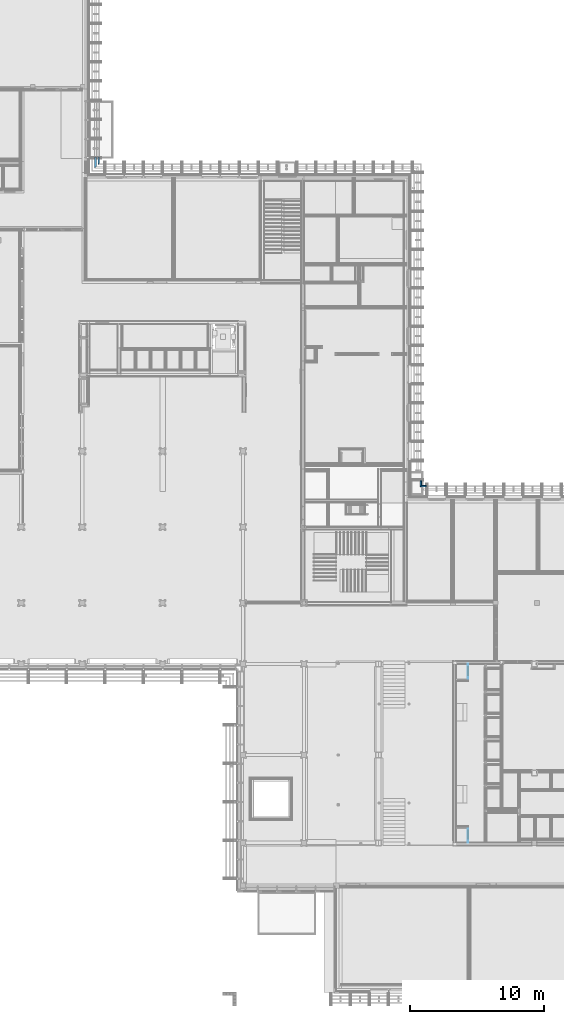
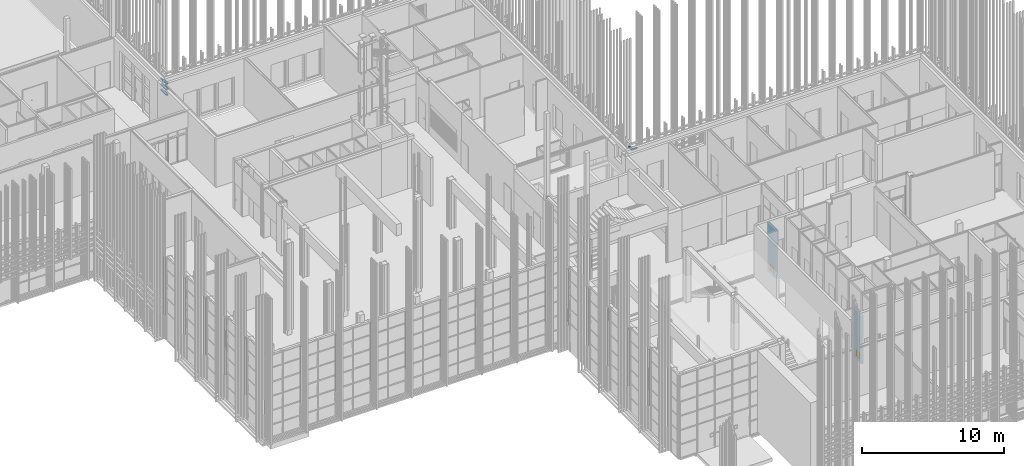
# One storey, part 236 of 260: 5 discrete accessories, 2 doors, 2 openings, 2 elements without a shape of their own, plus 8 elements that do not belong to this part.
"""IFC2X3 building model written with IfcOpenShell, lengths in millimetres."""

from ifc_helpers import new_model, entity, si_unit, converted_unit, derived_unit, money_unit, direction, frame, origin_with_axes, place, context, subcontext, project, spatial, faceted_brep, material, material_list, type_object, element, fill, aggregate, save


model = new_model("IFC2X3")

# Units and contexts
model_context = context("Model", 3, precision=0.01, world=origin_with_axes(), true_north=direction((0.0, 1.0)))
body_context = subcontext(model_context, "Body", "Model", "MODEL_VIEW")
ifc_project = project(units=[si_unit("LENGTHUNIT", "METRE", prefix="MILLI"), si_unit("AREAUNIT", "SQUARE_METRE"), si_unit("VOLUMEUNIT", "CUBIC_METRE"), converted_unit("PLANEANGLEUNIT", "DEGREE", entity("IfcPlaneAngleMeasure", 0.0174532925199), si_unit("PLANEANGLEUNIT", "RADIAN"), dimensions=[0, 0, 0, 0, 0, 0, 0]), money_unit("EUR"), converted_unit("TIMEUNIT", "Year", entity("IfcTimeMeasure", 31556926.0), si_unit("TIMEUNIT", "SECOND"), dimensions=[0, 0, 1, 0, 0, 0, 0]), si_unit("MASSUNIT", "GRAM", prefix="KILO"), si_unit("THERMODYNAMICTEMPERATUREUNIT", "DEGREE_CELSIUS"), si_unit("LUMINOUSINTENSITYUNIT", "LUMEN"), si_unit("ENERGYUNIT", "JOULE", prefix="MEGA"), derived_unit("THERMALCONDUCTANCEUNIT", [(si_unit("POWERUNIT", "WATT"), 1), (si_unit("LENGTHUNIT", "METRE"), -1), (si_unit("THERMODYNAMICTEMPERATUREUNIT", "KELVIN"), -1)]), derived_unit("SPECIFICHEATCAPACITYUNIT", [(si_unit("ENERGYUNIT", "JOULE"), 1), (si_unit("MASSUNIT", "GRAM", prefix="KILO"), -1), (si_unit("THERMODYNAMICTEMPERATUREUNIT", "KELVIN"), -1)]), derived_unit("MASSDENSITYUNIT", [(si_unit("MASSUNIT", "GRAM", prefix="KILO"), 1), (si_unit("VOLUMEUNIT", "CUBIC_METRE"), -1)])], contexts=[model_context])

# Site, building, storey
site_placement = place(None, origin_with_axes())
site = spatial("IfcSite", under=ifc_project, at=site_placement, Name="Kolde pst 67a", CompositionType="ELEMENT")
building_placement = place(site_placement, origin_with_axes())
building = spatial("IfcBuilding", under=site, at=building_placement, Name="Riigigümnaasium", CompositionType="ELEMENT")
storey_placement = place(building_placement, origin_with_axes())
storey = spatial("IfcBuildingStorey", under=building, at=storey_placement, Name="1. korrus", CompositionType="ELEMENT", Elevation=0.0)

# Door
door_style_1 = type_object("IfcDoorStyle", Name="Door 25", ConstructionType="NOTDEFINED", OperationType="SINGLE_SWING_LEFT", ParameterTakesPrecedence=False, Sizeable=False)
wall_1_placement = place(storey_placement, frame((65023.99473, 22953.9999746, 0.0), z_axis=(0.0, 0.0, 1.0), x_axis=(0.0, 1.0, 0.0)))
opening_1_placement = place(wall_1_placement, frame((748.136929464, 0.0, 100.0), z_axis=(0.0, 0.0, 1.0), x_axis=(1.0, 0.0, 0.0)))
door_1_placement = place(opening_1_placement, frame((350.0, 0.0, 0.0), z_axis=(0.0, 0.0, 1.0), x_axis=(-1.0, 0.0, 0.0)))
door_1 = element("IfcDoor", 1, at=door_1_placement, inside=storey, type_object=door_style_1, Name="Hooldusluuk vastavalt SA osale", ObjectType="DOOR", OverallHeight=700.0, OverallWidth=700.0, context=body_context, shape_type="Brep", body=[
    faceted_brep([(670.0, -40.0, 0.0), (670.0, -50.0, 0.0), (670.0, -50.0, 670.0), (670.0, -40.0, 670.0), (682.0, -40.0, 0.0), (682.0, 0.0, 0.0), (700.0, 0.0, 0.0), (700.0, -50.0, 0.0), (700.0, -50.0, 670.0), (682.0, -40.0, 670.0), (700.0, 0.0, 670.0), (682.0, 0.0, 670.0)], [[[0, 1, 2, 3]], [[4, 5, 6, 7, 1, 0]], [[1, 7, 8, 2]], [[9, 3, 2, 8, 10, 11]], [[9, 4, 0, 3]], [[11, 5, 4, 9]], [[11, 10, 6, 5]], [[6, 10, 8, 7]]]),
    faceted_brep([(18.0, -40.0, 670.0), (18.0, 0.0, 670.0), (0.0, 0.0, 670.0), (0.0, -50.0, 670.0), (30.0, -50.0, 670.0), (30.0, -40.0, 670.0), (18.0, -40.0, 0.0), (18.0, 0.0, 0.0), (0.0, 0.0, 0.0), (0.0, -50.0, 0.0), (30.0, -50.0, 0.0), (30.0, -40.0, 0.0)], [[[0, 1, 2, 3, 4, 5]], [[0, 6, 7, 1]], [[7, 8, 2, 1]], [[2, 8, 9, 3]], [[3, 9, 10, 4]], [[5, 4, 10, 11]], [[5, 11, 6, 0]], [[6, 11, 10, 9, 8, 7]]]),
    faceted_brep([(682.0, 0.0, 682.0), (18.0, 0.0, 682.0), (18.0, 0.0, 670.0), (0.0, 0.0, 670.0), (0.0, 0.0, 700.0), (700.0, 0.0, 700.0), (700.0, 0.0, 670.0), (682.0, 0.0, 670.0), (682.0, -40.0, 682.0), (18.0, -40.0, 682.0), (18.0, -40.0, 670.0), (30.0, -40.0, 670.0), (30.0, -50.0, 670.0), (0.0, -50.0, 670.0), (0.0, -50.0, 700.0), (700.0, -50.0, 700.0), (700.0, -50.0, 670.0), (682.0, -40.0, 670.0), (670.0, -50.0, 670.0), (670.0, -40.0, 670.0)], [[[0, 1, 2, 3, 4, 5, 6, 7]], [[0, 8, 9, 1]], [[1, 9, 10, 2]], [[10, 11, 12, 13, 3, 2]], [[4, 3, 13, 14]], [[5, 4, 14, 15]], [[6, 5, 15, 16]], [[17, 7, 6, 16, 18, 19]], [[7, 17, 8, 0]], [[10, 9, 8, 17, 19, 11]], [[19, 18, 12, 11]], [[12, 18, 16, 15, 14, 13]]]),
    faceted_brep([(18.0, 0.0, 0.0), (682.0, 0.0, 0.0), (682.0, -40.0, 0.0), (18.0, -40.0, 0.0), (18.0, 0.0, 682.0), (682.0, 0.0, 682.0), (682.0, -40.0, 682.0), (18.0, -40.0, 682.0)], [[[0, 1, 2, 3]], [[0, 4, 5, 1]], [[1, 5, 6, 2]], [[3, 2, 6, 7]], [[4, 0, 3, 7]], [[5, 4, 7, 6]]]),
])

door_style_2 = type_object("IfcDoorStyle", Name="Door 25", ConstructionType="NOTDEFINED", OperationType="SINGLE_SWING_RIGHT", ParameterTakesPrecedence=False, Sizeable=False)
wall_2_placement = place(storey_placement, frame((65023.6691478, 12129.9618286, 0.0), z_axis=(0.0, 0.0, 1.0), x_axis=(0.0, -1.0, 0.0)))
opening_2_placement = place(wall_2_placement, frame((615.000180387, 0.0, 100.0), z_axis=(0.0, 0.0, 1.0), x_axis=(1.0, 0.0, 0.0)))
door_2_placement = place(opening_2_placement, frame((-350.0, 0.0, 0.0), z_axis=(0.0, 0.0, 1.0), x_axis=(1.0, 0.0, 0.0)))
door_2 = element("IfcDoor", 2, at=door_2_placement, inside=storey, type_object=door_style_2, Name="Hooldusluuk vastavalt SA osale", ObjectType="DOOR", OverallHeight=700.0, OverallWidth=700.0, context=body_context, shape_type="Brep", body=[
    faceted_brep([(30.0, -40.0, 0.0), (30.0, -40.0, 670.0), (30.0, -50.0, 670.0), (30.0, -50.0, 0.0), (18.0, -40.0, 670.0), (18.0, -40.0, 0.0), (18.0, 0.0, 670.0), (0.0, 0.0, 670.0), (0.0, -50.0, 670.0), (0.0, -50.0, 0.0), (0.0, 0.0, 0.0), (18.0, 0.0, 0.0)], [[[0, 1, 2, 3]], [[4, 1, 0, 5]], [[4, 6, 7, 8, 2, 1]], [[3, 2, 8, 9]], [[5, 0, 3, 9, 10, 11]], [[6, 4, 5, 11]], [[6, 11, 10, 7]], [[10, 9, 8, 7]]]),
    faceted_brep([(682.0, -40.0, 670.0), (670.0, -40.0, 670.0), (670.0, -50.0, 670.0), (700.0, -50.0, 670.0), (700.0, 0.0, 670.0), (682.0, 0.0, 670.0), (682.0, -40.0, 0.0), (670.0, -40.0, 0.0), (670.0, -50.0, 0.0), (700.0, -50.0, 0.0), (700.0, 0.0, 0.0), (682.0, 0.0, 0.0)], [[[0, 1, 2, 3, 4, 5]], [[1, 0, 6, 7]], [[1, 7, 8, 2]], [[3, 2, 8, 9]], [[4, 3, 9, 10]], [[11, 5, 4, 10]], [[0, 5, 11, 6]], [[6, 11, 10, 9, 8, 7]]]),
    faceted_brep([(18.0, 0.0, 682.0), (18.0, 0.0, 670.0), (0.0, 0.0, 670.0), (0.0, 0.0, 700.0), (700.0, 0.0, 700.0), (700.0, 0.0, 670.0), (682.0, 0.0, 670.0), (682.0, 0.0, 682.0), (18.0, -40.0, 682.0), (18.0, -40.0, 670.0), (30.0, -40.0, 670.0), (30.0, -50.0, 670.0), (0.0, -50.0, 670.0), (0.0, -50.0, 700.0), (700.0, -50.0, 700.0), (700.0, -50.0, 670.0), (682.0, -40.0, 670.0), (670.0, -50.0, 670.0), (670.0, -40.0, 670.0), (682.0, -40.0, 682.0)], [[[0, 1, 2, 3, 4, 5, 6, 7]], [[1, 0, 8, 9]], [[9, 10, 11, 12, 2, 1]], [[2, 12, 13, 3]], [[3, 13, 14, 4]], [[4, 14, 15, 5]], [[16, 6, 5, 15, 17, 18]], [[7, 6, 16, 19]], [[0, 7, 19, 8]], [[16, 18, 10, 9, 8, 19]], [[10, 18, 17, 11]], [[17, 15, 14, 13, 12, 11]]]),
    faceted_brep([(682.0, 0.0, 0.0), (682.0, -40.0, 0.0), (18.0, -40.0, 0.0), (18.0, 0.0, 0.0), (682.0, 0.0, 682.0), (682.0, -40.0, 682.0), (18.0, -40.0, 682.0), (18.0, 0.0, 682.0)], [[[0, 1, 2, 3]], [[4, 5, 1, 0]], [[1, 5, 6, 2]], [[3, 2, 6, 7]], [[0, 3, 7, 4]], [[7, 6, 5, 4]]]),
])

# Discrete accessories
ifc_material_1 = material(Name="_VÄLISVIIMISTLUS - sõrmjätkatud puitprussid 120x115mm, liitekohad vähemärgatavad, Platowood sõrmjätkatud kuusk või samaväärne; eeltöödeldud tuletõkkevõõbaga, tuletundlikkus B-s1, d0, Woodsafe Exterior WFX™ või samaväärne; kinnitused vastavalt EK osale")
ifc_material_list = material_list([ifc_material_1, ifc_material_1])
discrete_accessory_type_1 = type_object("IfcDiscreteAccessoryType", Name="1+paiksekaitse 4 tk nihkes 2 370 x 355")
for number, where, z_axis, x_axis in (
    (3, (36803.0268916, 60804.999663, 2100.00014213), (0.0, 0.0, 1.0), (0.999999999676, 2.54661924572e-05, 0.0)),
    (4, (36803.0268916, 60804.999663, 2580.00014213), (0.0, 0.0, 1.0), (0.999999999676, 2.54661924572e-05, 0.0)),
    (5, (36803.0268916, 60804.999663, 3060.00014213), (0.0, 0.0, 1.0), (0.999999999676, 2.54661924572e-05, 0.0)),
):
    element("IfcDiscreteAccessory", number, at=place(storey_placement, frame(where, z_axis=z_axis, x_axis=x_axis)), inside=storey, type_object=discrete_accessory_type_1, material=ifc_material_list, Name="Päikesevarjestus", context=body_context, shape_type="Brep", body=[
        faceted_brep([(375.0, 1205.00635647, 347.001360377), (375.0, 374.990462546, 347.001360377), (495.0, 494.98741056, 357.5), (495.0, 1205.00635647, 357.5), (375.0, 1205.00635647, 242.5), (375.0, 374.990462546, 242.5), (495.0, 494.98741056, 242.5), (495.0, 1205.00635647, 242.5)], [[[0, 1, 2, 3]], [[4, 5, 1, 0]], [[5, 6, 2, 1]], [[3, 2, 6, 7]], [[4, 0, 3, 7]], [[7, 6, 5, 4]]]),
        faceted_brep([(625.0, 1205.00635647, 107.001360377), (625.0, 624.984104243, 107.001360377), (745.0, 744.981052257, 117.5), (745.0, 1205.00635647, 117.5), (625.0, 1205.00635647, 2.5), (625.0, 624.984104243, 2.5), (745.0, 744.981052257, 2.5), (745.0, 1205.00635647, 2.5)], [[[0, 1, 2, 3]], [[4, 5, 1, 0]], [[5, 6, 2, 1]], [[3, 2, 6, 7]], [[4, 0, 3, 7]], [[7, 6, 5, 4]]]),
    ])
discrete_accessory_type_2 = type_object("IfcDiscreteAccessoryType", Name="1+paiksekaitse 4 tk nihkes 1 120 x 115")
discrete_accessory_1_placement = place(storey_placement, frame((60804.99419, 36804.9718852, 3540.00014213), z_axis=(0.0, 0.0, 1.0), x_axis=(1.0, 0.0, 0.0)))
element("IfcDiscreteAccessory", 6, at=discrete_accessory_1_placement, inside=storey, type_object=discrete_accessory_type_2, material=ifc_material_1, Name="Päikesevarjestus", context=body_context, shape_type="Brep", body=[
    faceted_brep([(745.0, 1087.52992208, 117.5), (625.0, 1087.52992208, 107.001360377), (625.0, 625.0, 107.001360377), (745.0, 745.0, 117.5), (745.0, 1087.52992208, 2.5), (625.0, 1087.52992208, 2.5), (625.0, 625.0, 2.5), (745.0, 745.0, 2.5)], [[[0, 1, 2, 3]], [[4, 5, 1, 0]], [[1, 5, 6, 2]], [[2, 6, 7, 3]], [[4, 0, 3, 7]], [[5, 4, 7, 6]]]),
])
discrete_accessory_2_placement = place(storey_placement, frame((61891.7016169, 36804.9718852, 3540.00014213), z_axis=(0.0, 0.0, 1.0), x_axis=(0.0, 1.0, 0.0)))
element("IfcDiscreteAccessory", 7, at=discrete_accessory_2_placement, inside=storey, type_object=discrete_accessory_type_2, material=ifc_material_1, Name="Päikesevarjestus", context=body_context, shape_type="Brep", body=[
    faceted_brep([(745.0, 341.707426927, 117.5), (625.0, 461.707426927, 107.001360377), (625.0, 0.0, 107.001360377), (745.0, 0.0, 117.5), (745.0, 341.707426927, 2.5), (625.0, 461.707426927, 2.5), (625.0, 0.0, 2.5), (745.0, 0.0, 2.5)], [[[0, 1, 2, 3]], [[4, 5, 1, 0]], [[1, 5, 6, 2]], [[2, 6, 7, 3]], [[4, 0, 3, 7]], [[5, 4, 7, 6]]]),
])

# Wall, opening
wall_type = type_object("IfcWallType", Name="SS-MK-10/2_šahti sein+plaat 140", PredefinedType="NOTDEFINED")
wall_1 = element("IfcWall", 8, at=wall_1_placement, inside=storey, type_object=wall_type, Name="Sisesein")
opening_1 = element("IfcOpeningElement", 9, at=opening_1_placement, cuts=wall_1, Name="Hooldusluuk vastavalt SA osale", context=body_context, shape_type="Brep", body=[
    faceted_brep([(350.0, -280.0, 700.0), (350.0, -280.0, 0.0), (350.0, 140.0, 0.0), (350.0, 140.0, 700.0), (-350.0, -280.0, 700.0), (-350.0, -280.0, 0.0), (-350.0, 140.0, 0.0), (-350.0, 140.0, 700.0)], [[[0, 1, 2, 3]], [[0, 4, 5, 1]], [[1, 5, 6, 2]], [[3, 2, 6, 7]], [[4, 0, 3, 7]], [[5, 4, 7, 6]]]),
])

fill(opening_1, door_1)

# Building element part
ifc_material_2 = material(Name="_KARKASS - metallkarkass CW 100/50/06 ja UW 100/40/06, samm 600, vahel mineraalvill, helineeldetegur αw = 1.0,  ISOVER ACOUSTIC 100mm või samaväärne")
building_element_part_1_placement = place(wall_1_placement, origin_with_axes())
building_element_part_1 = element("IfcBuildingElementPart", 10, at=building_element_part_1_placement, material=ifc_material_2, Name="_KARKASS - metallkarkass CW 100/50/06 ja UW 100/40/06, samm 600, vahel mineraalvill, helineeldetegur αw = 1.0,  ISOVER ACOUSTIC 100mm või samaväärne", context=body_context, shape_type="Brep", body=[
    faceted_brep([(1283.00006103, 140.0, 4185.0), (1283.00006103, 140.0, 0.0), (139.995788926, 140.0, 0.0), (139.995788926, 140.0, 4185.0), (398.136929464, 140.0, 100.0), (1098.13692946, 140.0, 100.0), (1098.13692946, 140.0, 800.0), (398.136929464, 140.0, 800.0), (1283.00006103, 40.0, 4185.0), (1283.00006103, 40.0, 0.0), (139.998796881, 40.0, 0.0), (139.998796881, 40.0, 4185.0), (398.136929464, 40.0, 100.0), (1098.13692946, 40.0, 100.0), (1098.13692946, 40.0, 800.0), (398.136929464, 40.0, 800.0)], [[[0, 1, 2, 3], [4, 5, 6, 7]], [[8, 9, 1, 0]], [[1, 9, 10, 2]], [[3, 2, 10, 11]], [[8, 0, 3, 11]], [[12, 13, 5, 4]], [[13, 14, 6, 5]], [[14, 15, 7, 6]], [[15, 12, 4, 7]], [[11, 10, 9, 8], [12, 15, 14, 13]]]),
])

ifc_material_3 = material(Name="_PLAATMATERJAL - kipsplaat veekindel")
building_element_part_2_placement = place(wall_1_placement, origin_with_axes())
building_element_part_2 = element("IfcBuildingElementPart", 11, at=building_element_part_2_placement, material=ifc_material_3, Name="_PLAATMATERJAL - kipsplaat veekindel", context=body_context, shape_type="Brep", body=[
    faceted_brep([(1283.00006103, 40.0, 4185.0), (1283.00006103, 40.0, 0.0), (39.9987968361, 40.0, 0.0), (39.9987968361, 40.0, 4185.0), (398.136929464, 40.0, 100.0), (1098.13692946, 40.0, 100.0), (1098.13692946, 40.0, 800.0), (398.136929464, 40.0, 800.0), (1283.00006103, 27.5, 4185.0), (1283.00006103, 27.5, 0.0), (39.9991728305, 27.5, 0.0), (39.9991728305, 27.5, 4185.0), (398.136929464, 27.5, 100.0), (1098.13692946, 27.5, 100.0), (1098.13692946, 27.5, 800.0), (398.136929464, 27.5, 800.0)], [[[0, 1, 2, 3], [4, 5, 6, 7]], [[8, 9, 1, 0]], [[1, 9, 10, 2]], [[3, 2, 10, 11]], [[8, 0, 3, 11]], [[12, 13, 5, 4]], [[13, 14, 6, 5]], [[14, 15, 7, 6]], [[15, 12, 4, 7]], [[11, 10, 9, 8], [12, 15, 14, 13]]]),
])

building_element_part_3_placement = place(wall_1_placement, origin_with_axes())
building_element_part_3 = element("IfcBuildingElementPart", 12, at=building_element_part_3_placement, material=ifc_material_3, Name="_PLAATMATERJAL - kipsplaat veekindel", context=body_context, shape_type="Brep", body=[
    faceted_brep([(1283.00006103, 27.5, 4185.0), (1283.00006103, 27.5, 0.0), (27.4991728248, 27.5, 0.0), (27.4991728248, 27.5, 4185.0), (398.136929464, 27.5, 100.0), (1098.13692946, 27.5, 100.0), (1098.13692946, 27.5, 800.0), (398.136929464, 27.5, 800.0), (1283.00006103, 15.0, 4185.0), (1283.00006103, 15.0, 0.0), (27.4995488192, 15.0, 0.0), (27.4995488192, 15.0, 4185.0), (398.136929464, 15.0, 100.0), (1098.13692946, 15.0, 100.0), (1098.13692946, 15.0, 800.0), (398.136929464, 15.0, 800.0)], [[[0, 1, 2, 3], [4, 5, 6, 7]], [[8, 9, 1, 0]], [[1, 9, 10, 2]], [[3, 2, 10, 11]], [[8, 0, 3, 11]], [[12, 13, 5, 4]], [[13, 14, 6, 5]], [[14, 15, 7, 6]], [[15, 12, 4, 7]], [[11, 10, 9, 8], [12, 15, 14, 13]]]),
])

ifc_material_4 = material(Name="_VIIMISTLUSKIHT - viimistlus vastavalt SA osale")
building_element_part_4_placement = place(wall_1_placement, origin_with_axes())
building_element_part_4 = element("IfcBuildingElementPart", 13, at=building_element_part_4_placement, material=ifc_material_4, Name="_VIIMISTLUSKIHT - viimistlus vastavalt SA osale", context=body_context, shape_type="Brep", body=[
    faceted_brep([(1283.00006103, 15.0, 4185.0), (1283.00006103, 15.0, 0.0), (14.9995488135, 15.0, 0.0), (14.9995488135, 15.0, 4185.0), (398.136929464, 15.0, 100.0), (1098.13692946, 15.0, 100.0), (1098.13692946, 15.0, 800.0), (398.136929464, 15.0, 800.0), (1283.00006103, 0.0, 4185.0), (1283.00006103, 0.0, 0.0), (15.0000000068, 0.0, 0.0), (15.0000000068, 0.0, 4185.0), (398.136929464, 0.0, 100.0), (1098.13692946, 0.0, 100.0), (1098.13692946, 0.0, 800.0), (398.136929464, 0.0, 800.0)], [[[0, 1, 2, 3], [4, 5, 6, 7]], [[8, 9, 1, 0]], [[1, 9, 10, 2]], [[3, 2, 10, 11]], [[8, 0, 3, 11]], [[12, 13, 5, 4]], [[13, 14, 6, 5]], [[14, 15, 7, 6]], [[15, 12, 4, 7]], [[11, 10, 9, 8], [12, 15, 14, 13]]]),
])

aggregate(wall_1, [building_element_part_1, building_element_part_2, building_element_part_3, building_element_part_4])

# Wall, opening
wall_2 = element("IfcWall", 14, at=wall_2_placement, inside=storey, type_object=wall_type, Name="Sisesein")
opening_2 = element("IfcOpeningElement", 15, at=opening_2_placement, cuts=wall_2, Name="Hooldusluuk vastavalt SA osale", context=body_context, shape_type="Brep", body=[
    faceted_brep([(350.0, -140.0, 700.0), (350.0, -140.0, 0.0), (350.0, 280.0, 0.0), (350.0, 280.0, 700.0), (-350.0, -140.0, 700.0), (-350.0, -140.0, 0.0), (-350.0, 280.0, 0.0), (-350.0, 280.0, 700.0)], [[[0, 1, 2, 3]], [[0, 4, 5, 1]], [[1, 5, 6, 2]], [[3, 2, 6, 7]], [[4, 0, 3, 7]], [[5, 4, 7, 6]]]),
])

fill(opening_2, door_2)

# Building element part
building_element_part_5_placement = place(wall_2_placement, origin_with_axes())
building_element_part_5 = element("IfcBuildingElementPart", 16, at=building_element_part_5_placement, material=ifc_material_4, Name="_VIIMISTLUSKIHT - viimistlus vastavalt SA osale", context=body_context, shape_type="Brep", body=[
    faceted_brep([(14.9995488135, -15.0, 4185.0), (14.9995488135, -15.0, 0.0), (1230.00036077, -15.0, 0.0), (1230.00036077, -15.0, 4185.0), (965.000180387, -15.0, 100.0), (265.000180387, -15.0, 100.0), (265.000180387, -15.0, 800.0), (965.000180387, -15.0, 800.0), (15.0000000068, 0.0, 4185.0), (15.0000000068, 0.0, 0.0), (1230.00036077, 0.0, 0.0), (1230.00036077, 0.0, 4185.0), (965.000180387, 0.0, 100.0), (265.000180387, 0.0, 100.0), (265.000180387, 0.0, 800.0), (965.000180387, 0.0, 800.0)], [[[0, 1, 2, 3], [4, 5, 6, 7]], [[8, 9, 1, 0]], [[10, 2, 1, 9]], [[3, 2, 10, 11]], [[8, 0, 3, 11]], [[12, 13, 5, 4]], [[13, 14, 6, 5]], [[14, 15, 7, 6]], [[15, 12, 4, 7]], [[11, 10, 9, 8], [12, 15, 14, 13]]]),
])

building_element_part_6_placement = place(wall_2_placement, origin_with_axes())
building_element_part_6 = element("IfcBuildingElementPart", 17, at=building_element_part_6_placement, material=ifc_material_3, Name="_PLAATMATERJAL - kipsplaat veekindel", context=body_context, shape_type="Brep", body=[
    faceted_brep([(27.4991728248, -27.5, 4185.0), (27.4991728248, -27.5, 0.0), (1230.00036077, -27.5, 0.0), (1230.00036077, -27.5, 4185.0), (965.000180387, -27.5, 100.0), (265.000180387, -27.5, 100.0), (265.000180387, -27.5, 800.0), (965.000180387, -27.5, 800.0), (27.4995488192, -15.0, 4185.0), (27.4995488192, -15.0, 0.0), (1230.00036077, -15.0, 0.0), (1230.00036077, -15.0, 4185.0), (965.000180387, -15.0, 100.0), (265.000180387, -15.0, 100.0), (265.000180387, -15.0, 800.0), (965.000180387, -15.0, 800.0)], [[[0, 1, 2, 3], [4, 5, 6, 7]], [[8, 9, 1, 0]], [[10, 2, 1, 9]], [[3, 2, 10, 11]], [[8, 0, 3, 11]], [[12, 13, 5, 4]], [[13, 14, 6, 5]], [[14, 15, 7, 6]], [[15, 12, 4, 7]], [[11, 10, 9, 8], [12, 15, 14, 13]]]),
])

building_element_part_7_placement = place(wall_2_placement, origin_with_axes())
building_element_part_7 = element("IfcBuildingElementPart", 18, at=building_element_part_7_placement, material=ifc_material_3, Name="_PLAATMATERJAL - kipsplaat veekindel", context=body_context, shape_type="Brep", body=[
    faceted_brep([(39.9987968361, -40.0, 4185.0), (39.9987968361, -40.0, 0.0), (1230.00036077, -40.0, 0.0), (1230.00036077, -40.0, 4185.0), (965.000180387, -40.0, 100.0), (265.000180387, -40.0, 100.0), (265.000180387, -40.0, 800.0), (965.000180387, -40.0, 800.0), (39.9991728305, -27.5, 4185.0), (39.9991728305, -27.5, 0.0), (1230.00036077, -27.5, 0.0), (1230.00036077, -27.5, 4185.0), (965.000180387, -27.5, 100.0), (265.000180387, -27.5, 100.0), (265.000180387, -27.5, 800.0), (965.000180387, -27.5, 800.0)], [[[0, 1, 2, 3], [4, 5, 6, 7]], [[8, 9, 1, 0]], [[10, 2, 1, 9]], [[3, 2, 10, 11]], [[8, 0, 3, 11]], [[12, 13, 5, 4]], [[13, 14, 6, 5]], [[14, 15, 7, 6]], [[15, 12, 4, 7]], [[11, 10, 9, 8], [12, 15, 14, 13]]]),
])

building_element_part_8_placement = place(wall_2_placement, origin_with_axes())
building_element_part_8 = element("IfcBuildingElementPart", 19, at=building_element_part_8_placement, material=ifc_material_2, Name="_KARKASS - metallkarkass CW 100/50/06 ja UW 100/40/06, samm 600, vahel mineraalvill, helineeldetegur αw = 1.0,  ISOVER ACOUSTIC 100mm või samaväärne", context=body_context, shape_type="Brep", body=[
    faceted_brep([(139.995788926, -140.0, 4185.0), (139.995788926, -140.0, 0.0), (1230.00036077, -140.0, 0.0), (1230.00036077, -140.0, 4185.0), (965.000180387, -140.0, 100.0), (265.000180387, -140.0, 100.0), (265.000180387, -140.0, 800.0), (965.000180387, -140.0, 800.0), (139.998796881, -40.0, 4185.0), (139.998796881, -40.0, 0.0), (1230.00036077, -40.0, 0.0), (1230.00036077, -40.0, 4185.0), (965.000180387, -40.0, 100.0), (265.000180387, -40.0, 100.0), (265.000180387, -40.0, 800.0), (965.000180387, -40.0, 800.0)], [[[0, 1, 2, 3], [4, 5, 6, 7]], [[8, 9, 1, 0]], [[10, 2, 1, 9]], [[3, 2, 10, 11]], [[8, 0, 3, 11]], [[12, 13, 5, 4]], [[13, 14, 6, 5]], [[14, 15, 7, 6]], [[15, 12, 4, 7]], [[11, 10, 9, 8], [12, 15, 14, 13]]]),
])

aggregate(wall_2, [building_element_part_5, building_element_part_6, building_element_part_7, building_element_part_8])

save(model, "model.ifc")
